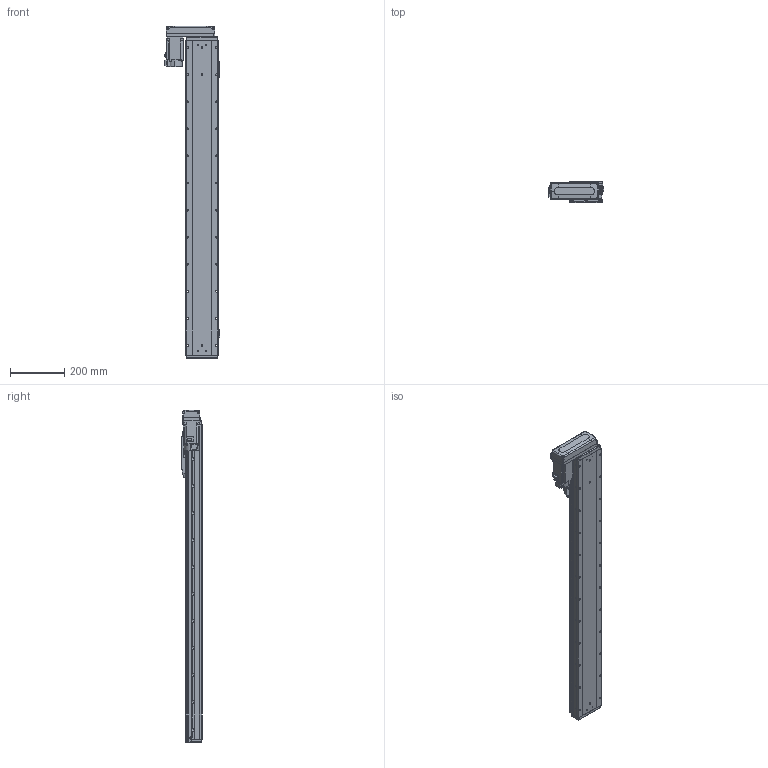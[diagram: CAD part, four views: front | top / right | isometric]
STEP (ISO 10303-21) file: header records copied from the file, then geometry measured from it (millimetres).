
FILE_DESCRIPTION (( 'STEP AP203' ), '1' );
FILE_NAME ('GTH12-950-BR-M40-C4.step', '2023-07-05T00:07:40', ( '微软用户' ), ( '微软中国' ), 'SwSTEP 2.0', 'SolidWorks 2020', '' );
FILE_SCHEMA (( 'CONFIG_CONTROL_DESIGN' ));
Length unit declared in the file: millimetre
Products named in the file (18): GTH12-950-BR-M40-C4; GBT 70.1-M5×16; GTH50-024; GTH120-001_950; GBT 70.3-M3℅8; GBT96.1-2002 3×0.8; GTH120-003; GTH80-022; BTH-M3X5X6; GTH120-006; GTH80-028; hg-kn43j_-s100_; GTH120-004; GTH50-023; CTHA86-033_M40B; GTH120-013; GTH120-027-1_GTH120-027-2; GBT 70.1-M3℅6
Assembly tree (59 placements, depth 2):
  GTH12-950-BR-M40-C4
    GTH120-001_950
    GTH120-003
    GTH120-006
    GTH120-004
    GTH120-013
    GBT 70.1-M3℅6  x14
    GBT 70.1-M5×16  x10
    GBT 70.3-M3℅8  x4
    GTH80-022
    GTH80-028  x2
    GTH50-023  x3
    GTH50-024  x3
    GBT96.1-2002 3×0.8  x6
    BTH-M3X5X6  x8
    hg-kn43j_-s100_
    CTHA86-033_M40B
    GTH120-027-1_GTH120-027-2
Bounding box: 203.5 x 76 x 1225.5 mm (x, y, z)
Volume: 8842840.4 mm3; surface area: 765090.5 mm2
Topology: 61 solids, 61 shells, 2520 faces, 5899 edges, 3621 vertices
Faces by surface type: plane 1286, cylinder 742, cone 304, torus 174, sphere 8, bspline 6
Entity records: 47965 total; most frequent: CARTESIAN_POINT 8126, DIRECTION 7971, ORIENTED_EDGE 7408, EDGE_CURVE 3704, AXIS2_PLACEMENT_3D 2787, LINE 2397, VECTOR 2397, VERTEX_POINT 2342
